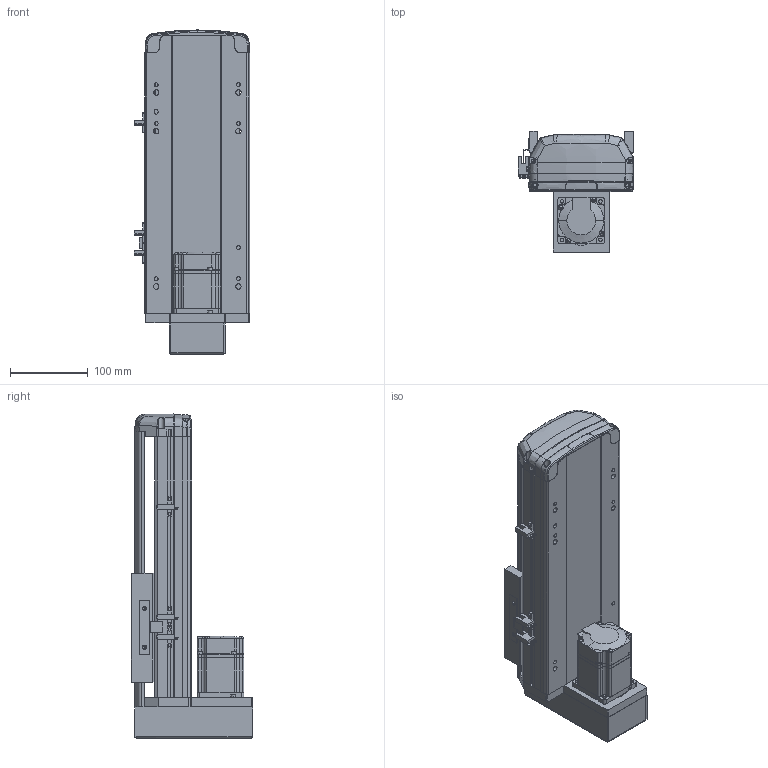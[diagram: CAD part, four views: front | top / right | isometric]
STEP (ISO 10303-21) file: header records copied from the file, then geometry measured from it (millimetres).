
FILE_DESCRIPTION (( 'STEP AP214' ), '1' );
FILE_NAME ('RTH14-XX-150-M-M20-C4.STEP', '2025-10-25T02:46:14', ( 'Microsoft' ), ( 'Microsoft' ), 'SwSTEP 2.0', 'SolidWorks 2018', '' );
FILE_SCHEMA (( 'AUTOMOTIVE_DESIGN' ));
Length unit declared in the file: millimetre
Products named in the file (10): N_RTH14-R-004-SFSR16賑釱^RTH14-XX-XX-M-M20-C4; N_MSMD022P1AA_200W^RTH14-XX-XX-M-M20-C4; N_RTH14-M-011P菁釱^RTH14-XX-XX-M-M20-C4; N_RTH13-M-018裔赽^RTH14-XX-XX-M-M20-C4; RTH14-XX-150-M-M20-C4; N_RTH14-GY-001P^RTH14-XX-XX-M-M20-C4; N_OMRON EE-SX672 传感器^RTH14-XX-XX-M-M20-C4; N_RTH13-M-008萇儂啣狟殏^RTH14-XX-XX-M-M20-C4; N_RTH13-L-012感应片（外置）^RTH14-XX-XX-M-M20-C4; N_RTH14-M-007P奻裔^RTH14-XX-XX-M-M20-C4
Assembly tree (11 placements, depth 2):
  RTH14-XX-150-M-M20-C4
    N_RTH14-M-011P菁釱^RTH14-XX-XX-M-M20-C4
    N_RTH14-M-007P奻裔^RTH14-XX-XX-M-M20-C4
    N_MSMD022P1AA_200W^RTH14-XX-XX-M-M20-C4
    N_RTH13-M-008萇儂啣狟殏^RTH14-XX-XX-M-M20-C4
    N_RTH13-M-018裔赽^RTH14-XX-XX-M-M20-C4
    N_RTH13-L-012感应片（外置）^RTH14-XX-XX-M-M20-C4
    N_OMRON EE-SX672 传感器^RTH14-XX-XX-M-M20-C4  x3
    N_RTH14-R-004-SFSR16賑釱^RTH14-XX-XX-M-M20-C4
    N_RTH14-GY-001P^RTH14-XX-XX-M-M20-C4
Bounding box: 148.5 x 156.5 x 417.49 mm (x, y, z)
Volume: 2227411.6 mm3; surface area: 531069.6 mm2
Topology: 11 solids, 11 shells, 1847 faces, 5156 edges, 3376 vertices
Faces by surface type: plane 991, cylinder 462, bspline 345, cone 45, torus 4
Entity records: 56114 total; most frequent: CARTESIAN_POINT 22771, ORIENTED_EDGE 7380, DIRECTION 5867, EDGE_CURVE 3690, VERTEX_POINT 2412, VECTOR 2145, LINE 2145, AXIS2_PLACEMENT_3D 1861
